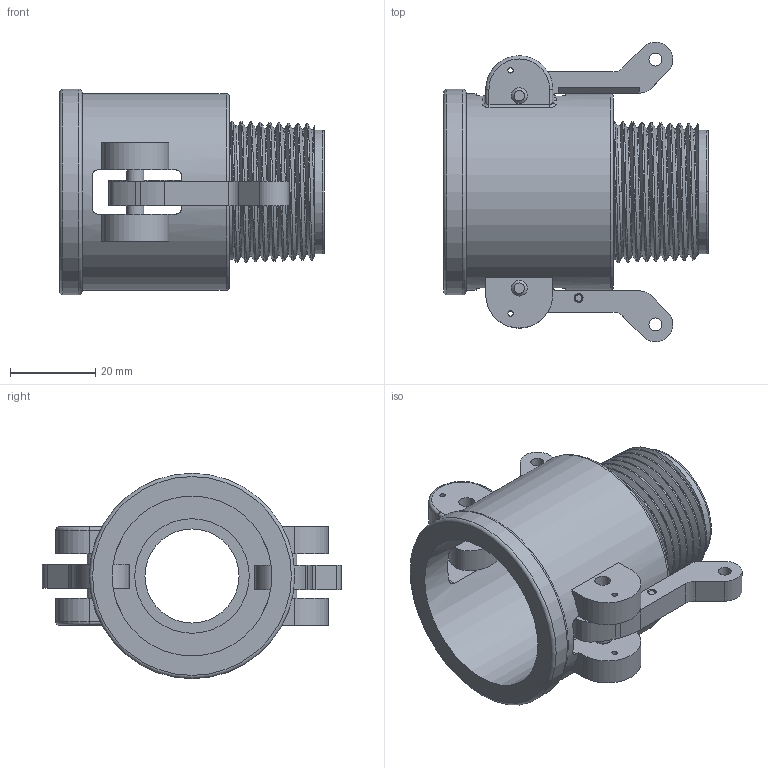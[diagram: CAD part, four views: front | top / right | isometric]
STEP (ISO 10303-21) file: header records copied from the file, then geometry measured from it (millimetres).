
FILE_DESCRIPTION(/* description */ ('Alibre Inc.'),/* implementation_level */ '2;1');
FILE_NAME(/* name */ 'export0',/* time_stamp */ '2015-12-30T13:26:57-05:00',/* author */ (''),/* organization */ (''),/* preprocessor_version */ 'ST-DEVELOPER v14',/* originating_system */ 'Alibre',/* authorisation */ '');
FILE_SCHEMA (('CONFIG_CONTROL_DESIGN'));
Length unit declared in the file: centimetre
Products named in the file (5): ID_1; ID_2; ID_3
Bounding box: 62.23 x 70.35 x 48.26 mm (x, y, z)
Volume: 42672.2 mm3; surface area: 25757.6 mm2
Topology: 6 solids, 6 shells, 161 faces, 405 edges, 265 vertices
Faces by surface type: plane 61, cylinder 52, cone 28, torus 11, bspline 9
Full cylindrical faces by diameter (mm): 1.27 x4, 3.048 x2, 3.712 x4, 3.962 x2, 4.216 x2, 4.242 x2, 22.098 x1, 26.924 x1, 28.956 x1, 37.592 x1, 39.624 x1, 40.64 x1, 46.228 x1, 48.26 x1
Entity records: 25547 total; most frequent: CARTESIAN_POINT 22084, ORIENTED_EDGE 620, DIRECTION 505, EDGE_CURVE 310, AXIS2_PLACEMENT_3D 224, VERTEX_POINT 217, EDGE_LOOP 193, FACE_BOUND 193
